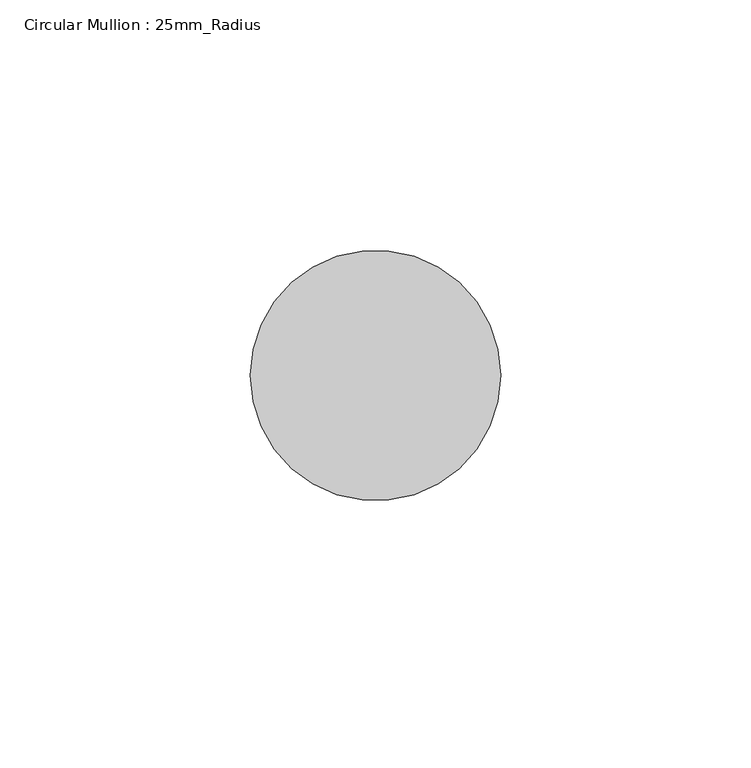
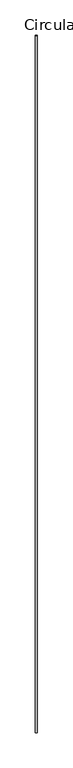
"""IFC4 building model written with IfcOpenShell, lengths in millimetres: member geometry, Circular Mullion : 25mm_Radius."""

from ifc_helpers import new_model, si_unit, point, frame, origin, origin_2d, place, context, project, spatial, circle_curve, trimmed, segment, composite_curve, outline, extrude, source, transform, mapped, element, save


def circular_mullion_25mm_radius_0d54fb0c(model_context):
    return source(origin(), model_context, "Body", "SweptSolid", [
        extrude(outline(composite_curve([segment(trimmed(circle_curve(origin_2d(), 25.0), [point((25.0, 0.0))], [point((-25.0, 0.0))], False, "CARTESIAN"), True, "CONTINUOUS"), segment(trimmed(circle_curve(origin_2d(), 25.0), [point((-25.0, 0.0))], [point((25.0, 0.0))], False, "CARTESIAN"), True, "CONTINUOUS")], self_intersect=False)), frame((0.0, 0.0, -19481.2514503), z_axis=(0.0, 0.0, 1.0), x_axis=(1.0, 0.0, 0.0)), (0.0, 0.0, 1.0), 19481.2514503),
    ])


if __name__ == "__main__":
    model = new_model("IFC4")
    model_context = context("Model", 3, world=origin())
    ifc_project = project(units=[si_unit("LENGTHUNIT", "METRE", prefix="MILLI")], contexts=[model_context])
    site = spatial("IfcSite", under=ifc_project)
    building = spatial("IfcBuilding", under=site)
    placement = place(None, origin())
    circular_mullion_25mm_radius_shape = circular_mullion_25mm_radius_0d54fb0c(model_context)
    element("IfcMember", 1, ObjectType="Circular Mullion : 25mm_Radius", at=placement, inside=building, context=model_context, shape_type="MappedRepresentation", body=[
        mapped(circular_mullion_25mm_radius_shape, transform((0.0, 0.0, 0.0), x_axis=(1.0, 0.0, 0.0), y_axis=(0.0, 1.0, 0.0), z_axis=(0.0, 0.0, 1.0))),
    ])
    save(model, "model.ifc")
